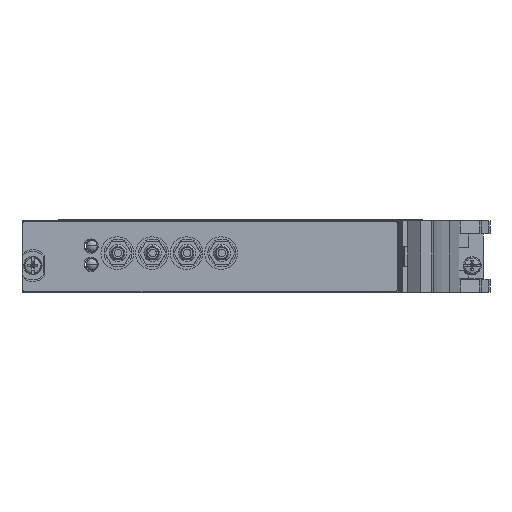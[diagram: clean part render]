
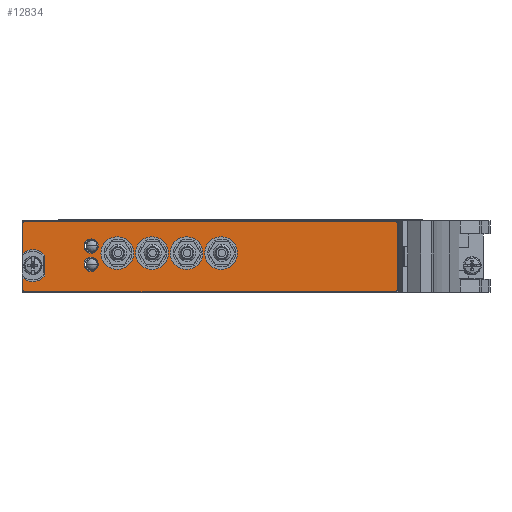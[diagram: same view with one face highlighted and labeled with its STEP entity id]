
A CAD part, left-side view. The second image highlights one B-rep face of the part: STEP entity #12834.
In plain terms, the highlighted planar face has unit normal (-1, 0, 0).
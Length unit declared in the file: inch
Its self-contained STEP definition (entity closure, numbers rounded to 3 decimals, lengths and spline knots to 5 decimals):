
#230=CARTESIAN_POINT('',(-0.21987,0.5348,0.66312));
#231=DIRECTION('',(-1.,0.,0.));
#232=DIRECTION('',(0.,0.,1.));
#233=AXIS2_PLACEMENT_3D('',#230,#231,#232);
#235=DIRECTION('',(0.,1.,0.));
#236=VECTOR('',#235,4.07);
#237=CARTESIAN_POINT('',(-0.21987,-3.5352,0.68312));
#238=LINE('',#237,#236);
#239=CARTESIAN_POINT('',(-0.21987,-3.5352,0.66312));
#240=DIRECTION('',(-1.,0.,0.));
#241=DIRECTION('',(0.,-1.,0.));
#242=AXIS2_PLACEMENT_3D('',#239,#240,#241);
#244=DIRECTION('',(0.,0.,1.));
#245=VECTOR('',#244,0.728);
#246=CARTESIAN_POINT('',(-0.21987,-3.5552,-0.06488));
#247=LINE('',#246,#245);
#248=CARTESIAN_POINT('',(-0.21987,-3.5352,-0.06488));
#249=DIRECTION('',(-1.,0.,0.));
#250=DIRECTION('',(0.,0.,-1.));
#251=AXIS2_PLACEMENT_3D('',#248,#249,#250);
#253=DIRECTION('',(0.,-1.,0.));
#254=VECTOR('',#253,4.07);
#255=CARTESIAN_POINT('',(-0.21987,0.5348,-0.08488));
#256=LINE('',#255,#254);
#257=CARTESIAN_POINT('',(-0.21987,0.5348,-0.06488));
#258=DIRECTION('',(-1.,0.,0.));
#259=DIRECTION('',(0.,1.,0.));
#260=AXIS2_PLACEMENT_3D('',#257,#258,#259);
#262=DIRECTION('',(0.,0.,-1.));
#263=VECTOR('',#262,0.1263);
#264=CARTESIAN_POINT('',(-0.21987,0.5548,0.06142));
#265=LINE('',#264,#263);
#266=CARTESIAN_POINT('',(-0.21987,0.4468,0.19912));
#267=DIRECTION('',(1.,0.,0.));
#268=DIRECTION('',(0.,-0.76,-0.65));
#269=AXIS2_PLACEMENT_3D('',#266,#267,#268);
#271=DIRECTION('',(0.,0.,-1.));
#272=VECTOR('',#271,0.22747);
#273=CARTESIAN_POINT('',(-0.21987,0.3138,0.31286));
#274=LINE('',#273,#272);
#275=CARTESIAN_POINT('',(-0.21987,0.4468,0.19912));
#276=DIRECTION('',(1.,0.,0.));
#277=DIRECTION('',(0.,0.617,0.787));
#278=AXIS2_PLACEMENT_3D('',#275,#276,#277);
#280=DIRECTION('',(0.,0.,-1.));
#281=VECTOR('',#280,0.3263);
#282=CARTESIAN_POINT('',(-0.21987,0.5548,0.66312));
#283=LINE('',#282,#281);
#284=CARTESIAN_POINT('',(-0.21987,-0.4812,0.33612));
#285=DIRECTION('',(-1.,0.,0.));
#286=DIRECTION('',(0.,0.,1.));
#287=AXIS2_PLACEMENT_3D('',#284,#285,#286);
#289=CARTESIAN_POINT('',(-0.21987,-0.4812,0.33612));
#290=DIRECTION('',(-1.,0.,0.));
#291=DIRECTION('',(0.,0.,-1.));
#292=AXIS2_PLACEMENT_3D('',#289,#290,#291);
#294=CARTESIAN_POINT('',(-0.21987,-0.8612,0.33612));
#295=DIRECTION('',(-1.,0.,0.));
#296=DIRECTION('',(0.,0.,1.));
#297=AXIS2_PLACEMENT_3D('',#294,#295,#296);
#299=CARTESIAN_POINT('',(-0.21987,-0.8612,0.33612));
#300=DIRECTION('',(-1.,0.,0.));
#301=DIRECTION('',(0.,0.,-1.));
#302=AXIS2_PLACEMENT_3D('',#299,#300,#301);
#304=CARTESIAN_POINT('',(-0.21987,-1.2412,0.33612));
#305=DIRECTION('',(-1.,0.,0.));
#306=DIRECTION('',(0.,0.,1.));
#307=AXIS2_PLACEMENT_3D('',#304,#305,#306);
#309=CARTESIAN_POINT('',(-0.21987,-1.2412,0.33612));
#310=DIRECTION('',(-1.,0.,0.));
#311=DIRECTION('',(0.,0.,-1.));
#312=AXIS2_PLACEMENT_3D('',#309,#310,#311);
#314=CARTESIAN_POINT('',(-0.21987,-1.6212,0.33612));
#315=DIRECTION('',(-1.,0.,0.));
#316=DIRECTION('',(0.,0.,1.));
#317=AXIS2_PLACEMENT_3D('',#314,#315,#316);
#319=CARTESIAN_POINT('',(-0.21987,-1.6212,0.33612));
#320=DIRECTION('',(-1.,0.,0.));
#321=DIRECTION('',(0.,0.,-1.));
#322=AXIS2_PLACEMENT_3D('',#319,#320,#321);
#324=CARTESIAN_POINT('',(-0.21987,-0.1942,0.41312));
#325=DIRECTION('',(-1.,0.,0.));
#326=DIRECTION('',(0.,-1.,0.));
#327=AXIS2_PLACEMENT_3D('',#324,#325,#326);
#329=CARTESIAN_POINT('',(-0.21987,-0.1942,0.41312));
#330=DIRECTION('',(-1.,0.,0.));
#331=DIRECTION('',(0.,1.,0.));
#332=AXIS2_PLACEMENT_3D('',#329,#330,#331);
#334=CARTESIAN_POINT('',(-0.21987,-0.1942,0.21312));
#335=DIRECTION('',(-1.,0.,0.));
#336=DIRECTION('',(0.,-1.,0.));
#337=AXIS2_PLACEMENT_3D('',#334,#335,#336);
#339=CARTESIAN_POINT('',(-0.21987,-0.1942,0.21312));
#340=DIRECTION('',(-1.,0.,0.));
#341=DIRECTION('',(0.,1.,0.));
#342=AXIS2_PLACEMENT_3D('',#339,#340,#341);
#11321=CARTESIAN_POINT('',(-0.21987,0.5348,0.68312));
#11322=CARTESIAN_POINT('',(-0.21987,0.5548,0.66312));
#11323=VERTEX_POINT('',#11321);
#11324=VERTEX_POINT('',#11322);
#11325=CARTESIAN_POINT('',(-0.21987,0.5548,0.33682));
#11326=VERTEX_POINT('',#11325);
#11327=CARTESIAN_POINT('',(-0.21987,0.3138,0.31286));
#11328=VERTEX_POINT('',#11327);
#11329=CARTESIAN_POINT('',(-0.21987,0.3138,0.08538));
#11330=VERTEX_POINT('',#11329);
#11331=CARTESIAN_POINT('',(-0.21987,0.5548,0.06142));
#11332=VERTEX_POINT('',#11331);
#11333=CARTESIAN_POINT('',(-0.21987,0.5548,-0.06488));
#11334=VERTEX_POINT('',#11333);
#11335=CARTESIAN_POINT('',(-0.21987,0.5348,-0.08488));
#11336=VERTEX_POINT('',#11335);
#11337=CARTESIAN_POINT('',(-0.21987,-3.5352,-0.08488));
#11338=VERTEX_POINT('',#11337);
#11339=CARTESIAN_POINT('',(-0.21987,-3.5552,-0.06488));
#11340=VERTEX_POINT('',#11339);
#11341=CARTESIAN_POINT('',(-0.21987,-3.5552,0.66312));
#11342=VERTEX_POINT('',#11341);
#11343=CARTESIAN_POINT('',(-0.21987,-3.5352,0.68312));
#11344=VERTEX_POINT('',#11343);
#11345=CARTESIAN_POINT('',(-0.21987,-0.4812,0.51612));
#11346=CARTESIAN_POINT('',(-0.21987,-0.4812,0.15612));
#11347=VERTEX_POINT('',#11345);
#11348=VERTEX_POINT('',#11346);
#11349=CARTESIAN_POINT('',(-0.21987,-0.8612,0.51612));
#11350=CARTESIAN_POINT('',(-0.21987,-0.8612,0.15612));
#11351=VERTEX_POINT('',#11349);
#11352=VERTEX_POINT('',#11350);
#11353=CARTESIAN_POINT('',(-0.21987,-1.2412,0.51612));
#11354=CARTESIAN_POINT('',(-0.21987,-1.2412,0.15612));
#11355=VERTEX_POINT('',#11353);
#11356=VERTEX_POINT('',#11354);
#11357=CARTESIAN_POINT('',(-0.21987,-1.6212,0.51612));
#11358=CARTESIAN_POINT('',(-0.21987,-1.6212,0.15612));
#11359=VERTEX_POINT('',#11357);
#11360=VERTEX_POINT('',#11358);
#11361=CARTESIAN_POINT('',(-0.21987,-0.2727,0.41312));
#11362=CARTESIAN_POINT('',(-0.21987,-0.1157,0.41312));
#11363=VERTEX_POINT('',#11361);
#11364=VERTEX_POINT('',#11362);
#11365=CARTESIAN_POINT('',(-0.21987,-0.2727,0.21312));
#11366=CARTESIAN_POINT('',(-0.21987,-0.1157,0.21312));
#11367=VERTEX_POINT('',#11365);
#11368=VERTEX_POINT('',#11366);
#12769=CARTESIAN_POINT('',(-0.21987,0.4468,0.19912));
#12770=DIRECTION('',(-1.,0.,0.));
#12771=DIRECTION('',(0.,0.,1.));
#12772=AXIS2_PLACEMENT_3D('',#12769,#12770,#12771);
#12773=PLANE('',#12772);
#12775=ORIENTED_EDGE('',*,*,#12774,.F.);
#12777=ORIENTED_EDGE('',*,*,#12776,.F.);
#12779=ORIENTED_EDGE('',*,*,#12778,.F.);
#12781=ORIENTED_EDGE('',*,*,#12780,.F.);
#12783=ORIENTED_EDGE('',*,*,#12782,.F.);
#12785=ORIENTED_EDGE('',*,*,#12784,.F.);
#12787=ORIENTED_EDGE('',*,*,#12786,.F.);
#12789=ORIENTED_EDGE('',*,*,#12788,.F.);
#12791=ORIENTED_EDGE('',*,*,#12790,.F.);
#12793=ORIENTED_EDGE('',*,*,#12792,.F.);
#12795=ORIENTED_EDGE('',*,*,#12794,.F.);
#12797=ORIENTED_EDGE('',*,*,#12796,.F.);
#12798=EDGE_LOOP('',(#12775,#12777,#12779,#12781,#12783,#12785,#12787,#12789,
#12791,#12793,#12795,#12797));
#12799=FACE_OUTER_BOUND('',#12798,.F.);
#12801=ORIENTED_EDGE('',*,*,#12800,.T.);
#12803=ORIENTED_EDGE('',*,*,#12802,.T.);
#12804=EDGE_LOOP('',(#12801,#12803));
#12805=FACE_BOUND('',#12804,.F.);
#12806=ORIENTED_EDGE('',*,*,#12749,.T.);
#12807=ORIENTED_EDGE('',*,*,#12763,.T.);
#12808=EDGE_LOOP('',(#12806,#12807));
#12809=FACE_BOUND('',#12808,.F.);
#12811=ORIENTED_EDGE('',*,*,#12810,.T.);
#12813=ORIENTED_EDGE('',*,*,#12812,.T.);
#12814=EDGE_LOOP('',(#12811,#12813));
#12815=FACE_BOUND('',#12814,.F.);
#12817=ORIENTED_EDGE('',*,*,#12816,.T.);
#12819=ORIENTED_EDGE('',*,*,#12818,.T.);
#12820=EDGE_LOOP('',(#12817,#12819));
#12821=FACE_BOUND('',#12820,.F.);
#12823=ORIENTED_EDGE('',*,*,#12822,.T.);
#12825=ORIENTED_EDGE('',*,*,#12824,.T.);
#12826=EDGE_LOOP('',(#12823,#12825));
#12827=FACE_BOUND('',#12826,.F.);
#12829=ORIENTED_EDGE('',*,*,#12828,.T.);
#12831=ORIENTED_EDGE('',*,*,#12830,.T.);
#12832=EDGE_LOOP('',(#12829,#12831));
#12833=FACE_BOUND('',#12832,.F.);
#12834=ADVANCED_FACE('',(#12799,#12805,#12809,#12815,#12821,#12827,#12833),
#12773,.T.);
#234=CIRCLE('',#233,0.02);
#243=CIRCLE('',#242,0.02);
#252=CIRCLE('',#251,0.02);
#261=CIRCLE('',#260,0.02);
#270=CIRCLE('',#269,0.175);
#279=CIRCLE('',#278,0.175);
#288=CIRCLE('',#287,0.18);
#293=CIRCLE('',#292,0.18);
#298=CIRCLE('',#297,0.18);
#303=CIRCLE('',#302,0.18);
#308=CIRCLE('',#307,0.18);
#313=CIRCLE('',#312,0.18);
#318=CIRCLE('',#317,0.18);
#323=CIRCLE('',#322,0.18);
#328=CIRCLE('',#327,0.0785);
#333=CIRCLE('',#332,0.0785);
#338=CIRCLE('',#337,0.0785);
#343=CIRCLE('',#342,0.0785);
#12749=EDGE_CURVE('',#11351,#11352,#298,.T.);
#12763=EDGE_CURVE('',#11352,#11351,#303,.T.);
#12774=EDGE_CURVE('',#11323,#11324,#234,.T.);
#12776=EDGE_CURVE('',#11344,#11323,#238,.T.);
#12778=EDGE_CURVE('',#11342,#11344,#243,.T.);
#12780=EDGE_CURVE('',#11340,#11342,#247,.T.);
#12782=EDGE_CURVE('',#11338,#11340,#252,.T.);
#12784=EDGE_CURVE('',#11336,#11338,#256,.T.);
#12786=EDGE_CURVE('',#11334,#11336,#261,.T.);
#12788=EDGE_CURVE('',#11332,#11334,#265,.T.);
#12790=EDGE_CURVE('',#11330,#11332,#270,.T.);
#12792=EDGE_CURVE('',#11328,#11330,#274,.T.);
#12794=EDGE_CURVE('',#11326,#11328,#279,.T.);
#12796=EDGE_CURVE('',#11324,#11326,#283,.T.);
#12800=EDGE_CURVE('',#11347,#11348,#288,.T.);
#12802=EDGE_CURVE('',#11348,#11347,#293,.T.);
#12810=EDGE_CURVE('',#11355,#11356,#308,.T.);
#12812=EDGE_CURVE('',#11356,#11355,#313,.T.);
#12816=EDGE_CURVE('',#11359,#11360,#318,.T.);
#12818=EDGE_CURVE('',#11360,#11359,#323,.T.);
#12822=EDGE_CURVE('',#11363,#11364,#328,.T.);
#12824=EDGE_CURVE('',#11364,#11363,#333,.T.);
#12828=EDGE_CURVE('',#11367,#11368,#338,.T.);
#12830=EDGE_CURVE('',#11368,#11367,#343,.T.);
